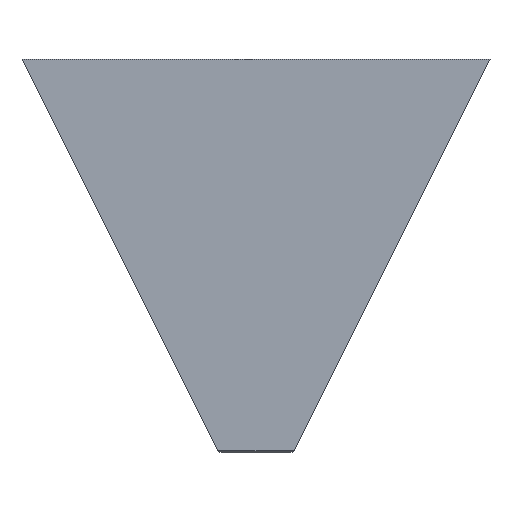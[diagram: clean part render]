
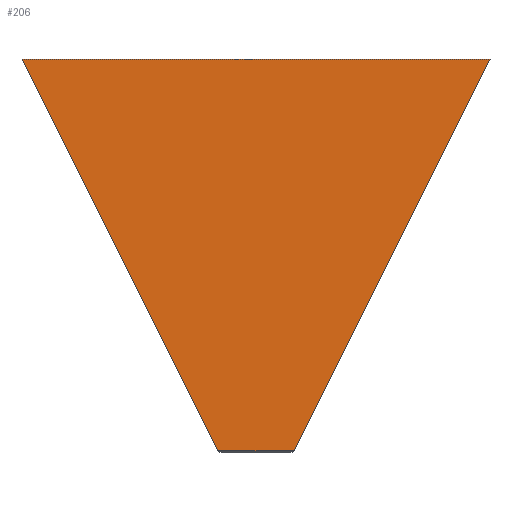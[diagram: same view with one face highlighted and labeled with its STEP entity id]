
A CAD part, top view. The second image highlights one B-rep face of the part: STEP entity #206.
In plain terms, the highlighted planar face has unit normal (0, 0, 1).
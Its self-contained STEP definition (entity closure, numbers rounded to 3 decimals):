
#44 = PLANE('',#45);
#45 = AXIS2_PLACEMENT_3D('',#46,#47,#48);
#46 = CARTESIAN_POINT('',(-480.774,702.887,5.));
#47 = DIRECTION('',(-0.707,-0.354,-0.612));
#48 = DIRECTION('',(0.655,0.,-0.756));
#71 = PLANE('',#72);
#72 = AXIS2_PLACEMENT_3D('',#73,#74,#75);
#73 = CARTESIAN_POINT('',(0.,1402.907,
    5.034));
#74 = DIRECTION('',(0.,0.866,-0.5));
#75 = DIRECTION('',(0.,0.5,0.866));
#98 = PLANE('',#99);
#99 = AXIS2_PLACEMENT_3D('',#100,#101,#102);
#100 = CARTESIAN_POINT('',(480.774,702.887,5.));
#101 = DIRECTION('',(0.707,-0.354,-0.612));
#102 = DIRECTION('',(0.655,0.,0.756));
#123 = PLANE('',#124);
#124 = AXIS2_PLACEMENT_3D('',#125,#126,#127);
#125 = CARTESIAN_POINT('',(0.,3.007,
    5.208));
#126 = DIRECTION('',(-0.,-0.866,0.5));
#127 = DIRECTION('',(0.,-0.5,-0.866));
#139 = VERTEX_POINT('',#140);
#140 = CARTESIAN_POINT('',(136.547,5.774,10.));
#160 = EDGE_CURVE('',#161,#139,#163,.T.);
#161 = VERTEX_POINT('',#162);
#162 = CARTESIAN_POINT('',(-136.547,5.774,10.));
#163 = SURFACE_CURVE('',#164,(#168,#174),.PCURVE_S1.);
#164 = LINE('',#165,#166);
#165 = CARTESIAN_POINT('',(-136.547,5.774,10.));
#166 = VECTOR('',#167,1.);
#167 = DIRECTION('',(1.,0.,0.));
#168 = PCURVE('',#123,#169);
#169 = DEFINITIONAL_REPRESENTATION('',(#170),#173);
#170 = B_SPLINE_CURVE_WITH_KNOTS('',1,(#171,#172),.UNSPECIFIED.,.F.,.F.,
  (2,2),(0.,273.094),.PIECEWISE_BEZIER_KNOTS.);
#171 = CARTESIAN_POINT('',(-5.534,-136.547));
#172 = CARTESIAN_POINT('',(-5.534,136.547));
#173 = ( GEOMETRIC_REPRESENTATION_CONTEXT(2) 
PARAMETRIC_REPRESENTATION_CONTEXT() REPRESENTATION_CONTEXT('2D SPACE',''
  ) );
#174 = PCURVE('',#175,#180);
#175 = PLANE('',#176);
#176 = AXIS2_PLACEMENT_3D('',#177,#178,#179);
#177 = CARTESIAN_POINT('',(0.,898.813,10.));
#178 = DIRECTION('',(0.,0.,1.));
#179 = DIRECTION('',(1.,0.,-0.));
#180 = DEFINITIONAL_REPRESENTATION('',(#181),#185);
#181 = LINE('',#182,#183);
#182 = CARTESIAN_POINT('',(-136.547,-893.039));
#183 = VECTOR('',#184,1.);
#184 = DIRECTION('',(1.,0.));
#185 = ( GEOMETRIC_REPRESENTATION_CONTEXT(2) 
PARAMETRIC_REPRESENTATION_CONTEXT() REPRESENTATION_CONTEXT('2D SPACE',''
  ) );
#206 = ADVANCED_FACE('',(#207),#175,.T.);
#207 = FACE_BOUND('',#208,.T.);
#208 = EDGE_LOOP('',(#209,#210,#232,#254));
#209 = ORIENTED_EDGE('',*,*,#160,.T.);
#210 = ORIENTED_EDGE('',*,*,#211,.T.);
#211 = EDGE_CURVE('',#139,#212,#214,.T.);
#212 = VERTEX_POINT('',#213);
#213 = CARTESIAN_POINT('',(836.547,1405.774,10.));
#214 = SURFACE_CURVE('',#215,(#219,#226),.PCURVE_S1.);
#215 = LINE('',#216,#217);
#216 = CARTESIAN_POINT('',(136.547,5.774,10.));
#217 = VECTOR('',#218,1.);
#218 = DIRECTION('',(0.447,0.894,0.));
#219 = PCURVE('',#175,#220);
#220 = DEFINITIONAL_REPRESENTATION('',(#221),#225);
#221 = LINE('',#222,#223);
#222 = CARTESIAN_POINT('',(136.547,-893.039));
#223 = VECTOR('',#224,1.);
#224 = DIRECTION('',(0.447,0.894));
#225 = ( GEOMETRIC_REPRESENTATION_CONTEXT(2) 
PARAMETRIC_REPRESENTATION_CONTEXT() REPRESENTATION_CONTEXT('2D SPACE',''
  ) );
#226 = PCURVE('',#98,#227);
#227 = DEFINITIONAL_REPRESENTATION('',(#228),#231);
#228 = B_SPLINE_CURVE_WITH_KNOTS('',1,(#229,#230),.UNSPECIFIED.,.F.,.F.,
  (2,2),(0.,1565.248),.PIECEWISE_BEZIER_KNOTS.);
#229 = CARTESIAN_POINT('',(-221.569,745.245));
#230 = CARTESIAN_POINT('',(236.688,-751.418));
#231 = ( GEOMETRIC_REPRESENTATION_CONTEXT(2) 
PARAMETRIC_REPRESENTATION_CONTEXT() REPRESENTATION_CONTEXT('2D SPACE',''
  ) );
#232 = ORIENTED_EDGE('',*,*,#233,.T.);
#233 = EDGE_CURVE('',#212,#234,#236,.T.);
#234 = VERTEX_POINT('',#235);
#235 = CARTESIAN_POINT('',(-836.547,1405.774,10.));
#236 = SURFACE_CURVE('',#237,(#241,#248),.PCURVE_S1.);
#237 = LINE('',#238,#239);
#238 = CARTESIAN_POINT('',(836.547,1405.774,10.));
#239 = VECTOR('',#240,1.);
#240 = DIRECTION('',(-1.,0.,0.));
#241 = PCURVE('',#175,#242);
#242 = DEFINITIONAL_REPRESENTATION('',(#243),#247);
#243 = LINE('',#244,#245);
#244 = CARTESIAN_POINT('',(836.547,506.961));
#245 = VECTOR('',#246,1.);
#246 = DIRECTION('',(-1.,0.));
#247 = ( GEOMETRIC_REPRESENTATION_CONTEXT(2) 
PARAMETRIC_REPRESENTATION_CONTEXT() REPRESENTATION_CONTEXT('2D SPACE',''
  ) );
#248 = PCURVE('',#71,#249);
#249 = DEFINITIONAL_REPRESENTATION('',(#250),#253);
#250 = B_SPLINE_CURVE_WITH_KNOTS('',1,(#251,#252),.UNSPECIFIED.,.F.,.F.,
  (2,2),(0.,1673.094),.PIECEWISE_BEZIER_KNOTS.);
#251 = CARTESIAN_POINT('',(5.734,836.547));
#252 = CARTESIAN_POINT('',(5.734,-836.547));
#253 = ( GEOMETRIC_REPRESENTATION_CONTEXT(2) 
PARAMETRIC_REPRESENTATION_CONTEXT() REPRESENTATION_CONTEXT('2D SPACE',''
  ) );
#254 = ORIENTED_EDGE('',*,*,#255,.T.);
#255 = EDGE_CURVE('',#234,#161,#256,.T.);
#256 = SURFACE_CURVE('',#257,(#261,#268),.PCURVE_S1.);
#257 = LINE('',#258,#259);
#258 = CARTESIAN_POINT('',(-836.547,1405.774,10.));
#259 = VECTOR('',#260,1.);
#260 = DIRECTION('',(0.447,-0.894,0.));
#261 = PCURVE('',#175,#262);
#262 = DEFINITIONAL_REPRESENTATION('',(#263),#267);
#263 = LINE('',#264,#265);
#264 = CARTESIAN_POINT('',(-836.547,506.961));
#265 = VECTOR('',#266,1.);
#266 = DIRECTION('',(0.447,-0.894));
#267 = ( GEOMETRIC_REPRESENTATION_CONTEXT(2) 
PARAMETRIC_REPRESENTATION_CONTEXT() REPRESENTATION_CONTEXT('2D SPACE',''
  ) );
#268 = PCURVE('',#44,#269);
#269 = DEFINITIONAL_REPRESENTATION('',(#270),#273);
#270 = B_SPLINE_CURVE_WITH_KNOTS('',1,(#271,#272),.UNSPECIFIED.,.F.,.F.,
  (2,2),(0.,1565.248),.PIECEWISE_BEZIER_KNOTS.);
#271 = CARTESIAN_POINT('',(-236.688,-751.418));
#272 = CARTESIAN_POINT('',(221.569,745.245));
#273 = ( GEOMETRIC_REPRESENTATION_CONTEXT(2) 
PARAMETRIC_REPRESENTATION_CONTEXT() REPRESENTATION_CONTEXT('2D SPACE',''
  ) );
